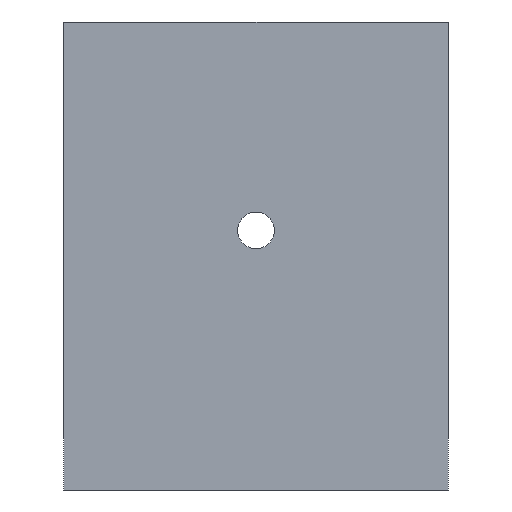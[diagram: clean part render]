
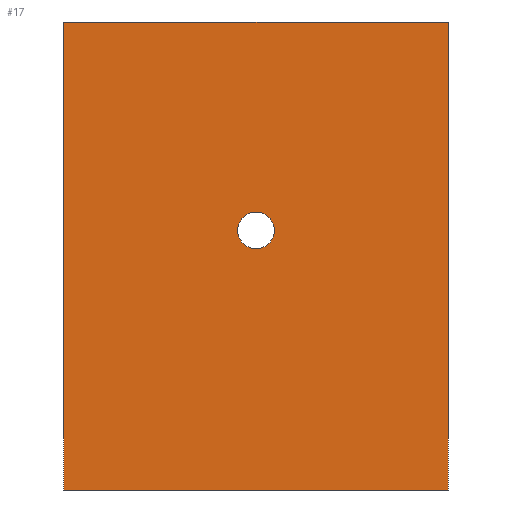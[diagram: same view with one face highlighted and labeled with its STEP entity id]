
A CAD part, left-side view. The second image highlights one B-rep face of the part: STEP entity #17.
In plain terms, the highlighted planar face has unit normal (-1, 0, 0).
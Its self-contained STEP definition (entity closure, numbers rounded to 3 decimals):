
#17 = ADVANCED_FACE('',(#18,#137),#32,.F.);
#18 = FACE_BOUND('',#19,.F.);
#19 = EDGE_LOOP('',(#20,#55,#83,#111));
#20 = ORIENTED_EDGE('',*,*,#21,.F.);
#21 = EDGE_CURVE('',#22,#24,#26,.T.);
#22 = VERTEX_POINT('',#23);
#23 = CARTESIAN_POINT('',(0.,-22.545,0.));
#24 = VERTEX_POINT('',#25);
#25 = CARTESIAN_POINT('',(0.,-22.545,54.9));
#26 = SURFACE_CURVE('',#27,(#31,#43),.PCURVE_S1.);
#27 = LINE('',#28,#29);
#28 = CARTESIAN_POINT('',(0.,-22.545,0.));
#29 = VECTOR('',#30,1.);
#30 = DIRECTION('',(0.,0.,1.));
#31 = PCURVE('',#32,#37);
#32 = PLANE('',#33);
#33 = AXIS2_PLACEMENT_3D('',#34,#35,#36);
#34 = CARTESIAN_POINT('',(0.,-22.545,0.));
#35 = DIRECTION('',(1.,0.,0.));
#36 = DIRECTION('',(0.,0.,1.));
#37 = DEFINITIONAL_REPRESENTATION('',(#38),#42);
#38 = LINE('',#39,#40);
#39 = CARTESIAN_POINT('',(0.,0.));
#40 = VECTOR('',#41,1.);
#41 = DIRECTION('',(1.,0.));
#42 = ( GEOMETRIC_REPRESENTATION_CONTEXT(2) 
PARAMETRIC_REPRESENTATION_CONTEXT() REPRESENTATION_CONTEXT('2D SPACE',''
  ) );
#43 = PCURVE('',#44,#49);
#44 = PLANE('',#45);
#45 = AXIS2_PLACEMENT_3D('',#46,#47,#48);
#46 = CARTESIAN_POINT('',(0.,-22.545,0.));
#47 = DIRECTION('',(0.,1.,0.));
#48 = DIRECTION('',(0.,0.,1.));
#49 = DEFINITIONAL_REPRESENTATION('',(#50),#54);
#50 = LINE('',#51,#52);
#51 = CARTESIAN_POINT('',(0.,0.));
#52 = VECTOR('',#53,1.);
#53 = DIRECTION('',(1.,0.));
#54 = ( GEOMETRIC_REPRESENTATION_CONTEXT(2) 
PARAMETRIC_REPRESENTATION_CONTEXT() REPRESENTATION_CONTEXT('2D SPACE',''
  ) );
#55 = ORIENTED_EDGE('',*,*,#56,.T.);
#56 = EDGE_CURVE('',#22,#57,#59,.T.);
#57 = VERTEX_POINT('',#58);
#58 = CARTESIAN_POINT('',(0.,22.545,0.));
#59 = SURFACE_CURVE('',#60,(#64,#71),.PCURVE_S1.);
#60 = LINE('',#61,#62);
#61 = CARTESIAN_POINT('',(0.,-22.545,0.));
#62 = VECTOR('',#63,1.);
#63 = DIRECTION('',(0.,1.,0.));
#64 = PCURVE('',#32,#65);
#65 = DEFINITIONAL_REPRESENTATION('',(#66),#70);
#66 = LINE('',#67,#68);
#67 = CARTESIAN_POINT('',(0.,0.));
#68 = VECTOR('',#69,1.);
#69 = DIRECTION('',(0.,-1.));
#70 = ( GEOMETRIC_REPRESENTATION_CONTEXT(2) 
PARAMETRIC_REPRESENTATION_CONTEXT() REPRESENTATION_CONTEXT('2D SPACE',''
  ) );
#71 = PCURVE('',#72,#77);
#72 = PLANE('',#73);
#73 = AXIS2_PLACEMENT_3D('',#74,#75,#76);
#74 = CARTESIAN_POINT('',(0.,-22.545,0.));
#75 = DIRECTION('',(0.,0.,1.));
#76 = DIRECTION('',(1.,0.,0.));
#77 = DEFINITIONAL_REPRESENTATION('',(#78),#82);
#78 = LINE('',#79,#80);
#79 = CARTESIAN_POINT('',(0.,0.));
#80 = VECTOR('',#81,1.);
#81 = DIRECTION('',(0.,1.));
#82 = ( GEOMETRIC_REPRESENTATION_CONTEXT(2) 
PARAMETRIC_REPRESENTATION_CONTEXT() REPRESENTATION_CONTEXT('2D SPACE',''
  ) );
#83 = ORIENTED_EDGE('',*,*,#84,.F.);
#84 = EDGE_CURVE('',#85,#57,#87,.T.);
#85 = VERTEX_POINT('',#86);
#86 = CARTESIAN_POINT('',(0.,22.545,54.9));
#87 = SURFACE_CURVE('',#88,(#92,#99),.PCURVE_S1.);
#88 = LINE('',#89,#90);
#89 = CARTESIAN_POINT('',(0.,22.545,54.9));
#90 = VECTOR('',#91,1.);
#91 = DIRECTION('',(0.,0.,-1.));
#92 = PCURVE('',#32,#93);
#93 = DEFINITIONAL_REPRESENTATION('',(#94),#98);
#94 = LINE('',#95,#96);
#95 = CARTESIAN_POINT('',(54.9,-45.09));
#96 = VECTOR('',#97,1.);
#97 = DIRECTION('',(-1.,0.));
#98 = ( GEOMETRIC_REPRESENTATION_CONTEXT(2) 
PARAMETRIC_REPRESENTATION_CONTEXT() REPRESENTATION_CONTEXT('2D SPACE',''
  ) );
#99 = PCURVE('',#100,#105);
#100 = PLANE('',#101);
#101 = AXIS2_PLACEMENT_3D('',#102,#103,#104);
#102 = CARTESIAN_POINT('',(0.,22.545,0.));
#103 = DIRECTION('',(0.,1.,0.));
#104 = DIRECTION('',(0.,0.,1.));
#105 = DEFINITIONAL_REPRESENTATION('',(#106),#110);
#106 = LINE('',#107,#108);
#107 = CARTESIAN_POINT('',(54.9,0.));
#108 = VECTOR('',#109,1.);
#109 = DIRECTION('',(-1.,0.));
#110 = ( GEOMETRIC_REPRESENTATION_CONTEXT(2) 
PARAMETRIC_REPRESENTATION_CONTEXT() REPRESENTATION_CONTEXT('2D SPACE',''
  ) );
#111 = ORIENTED_EDGE('',*,*,#112,.F.);
#112 = EDGE_CURVE('',#24,#85,#113,.T.);
#113 = SURFACE_CURVE('',#114,(#118,#125),.PCURVE_S1.);
#114 = LINE('',#115,#116);
#115 = CARTESIAN_POINT('',(0.,-22.545,54.9));
#116 = VECTOR('',#117,1.);
#117 = DIRECTION('',(0.,1.,0.));
#118 = PCURVE('',#32,#119);
#119 = DEFINITIONAL_REPRESENTATION('',(#120),#124);
#120 = LINE('',#121,#122);
#121 = CARTESIAN_POINT('',(54.9,0.));
#122 = VECTOR('',#123,1.);
#123 = DIRECTION('',(0.,-1.));
#124 = ( GEOMETRIC_REPRESENTATION_CONTEXT(2) 
PARAMETRIC_REPRESENTATION_CONTEXT() REPRESENTATION_CONTEXT('2D SPACE',''
  ) );
#125 = PCURVE('',#126,#131);
#126 = PLANE('',#127);
#127 = AXIS2_PLACEMENT_3D('',#128,#129,#130);
#128 = CARTESIAN_POINT('',(0.,-22.545,54.9));
#129 = DIRECTION('',(0.,0.,1.));
#130 = DIRECTION('',(1.,0.,0.));
#131 = DEFINITIONAL_REPRESENTATION('',(#132),#136);
#132 = LINE('',#133,#134);
#133 = CARTESIAN_POINT('',(0.,0.));
#134 = VECTOR('',#135,1.);
#135 = DIRECTION('',(0.,1.));
#136 = ( GEOMETRIC_REPRESENTATION_CONTEXT(2) 
PARAMETRIC_REPRESENTATION_CONTEXT() REPRESENTATION_CONTEXT('2D SPACE',''
  ) );
#137 = FACE_BOUND('',#138,.F.);
#138 = EDGE_LOOP('',(#139));
#139 = ORIENTED_EDGE('',*,*,#140,.F.);
#140 = EDGE_CURVE('',#141,#141,#143,.T.);
#141 = VERTEX_POINT('',#142);
#142 = CARTESIAN_POINT('',(-0.,2.15,30.45));
#143 = SURFACE_CURVE('',#144,(#149,#156),.PCURVE_S1.);
#144 = CIRCLE('',#145,2.15);
#145 = AXIS2_PLACEMENT_3D('',#146,#147,#148);
#146 = CARTESIAN_POINT('',(0.,0.,30.45));
#147 = DIRECTION('',(1.,0.,0.));
#148 = DIRECTION('',(0.,1.,0.));
#149 = PCURVE('',#32,#150);
#150 = DEFINITIONAL_REPRESENTATION('',(#151),#155);
#151 = CIRCLE('',#152,2.15);
#152 = AXIS2_PLACEMENT_2D('',#153,#154);
#153 = CARTESIAN_POINT('',(30.45,-22.545));
#154 = DIRECTION('',(0.,-1.));
#155 = ( GEOMETRIC_REPRESENTATION_CONTEXT(2) 
PARAMETRIC_REPRESENTATION_CONTEXT() REPRESENTATION_CONTEXT('2D SPACE',''
  ) );
#156 = PCURVE('',#157,#162);
#157 = CYLINDRICAL_SURFACE('',#158,2.15);
#158 = AXIS2_PLACEMENT_3D('',#159,#160,#161);
#159 = CARTESIAN_POINT('',(0.,0.,30.45));
#160 = DIRECTION('',(1.,0.,0.));
#161 = DIRECTION('',(0.,1.,0.));
#162 = DEFINITIONAL_REPRESENTATION('',(#163),#167);
#163 = LINE('',#164,#165);
#164 = CARTESIAN_POINT('',(0.,0.));
#165 = VECTOR('',#166,1.);
#166 = DIRECTION('',(1.,0.));
#167 = ( GEOMETRIC_REPRESENTATION_CONTEXT(2) 
PARAMETRIC_REPRESENTATION_CONTEXT() REPRESENTATION_CONTEXT('2D SPACE',''
  ) );
